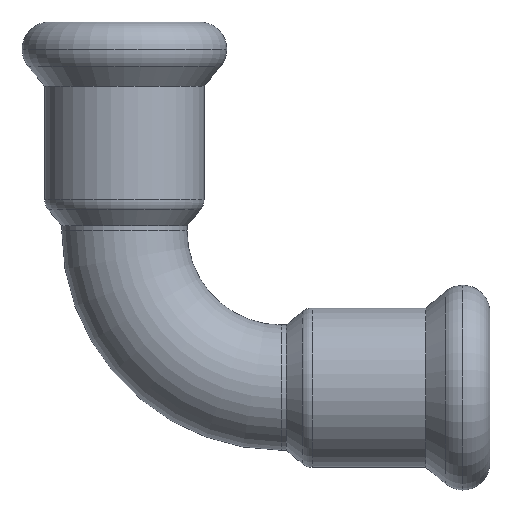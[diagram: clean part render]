
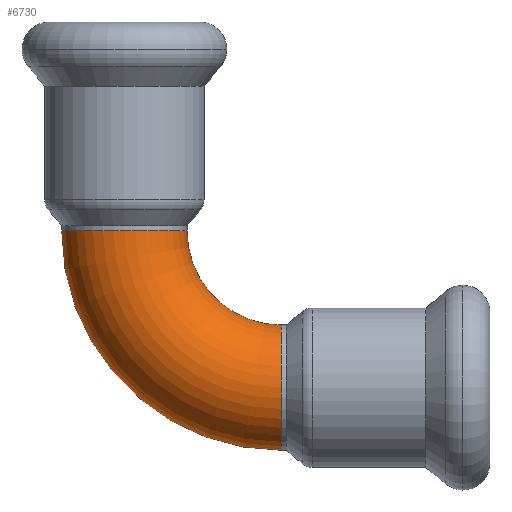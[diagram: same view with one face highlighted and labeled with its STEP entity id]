
A CAD part, top view. The second image highlights one B-rep face of the part: STEP entity #6730.
In plain terms, the highlighted toroidal (fillet/blend) face has major radius 15 mm and minor radius 6 mm.
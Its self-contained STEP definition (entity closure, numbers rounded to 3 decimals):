
#3160=CARTESIAN_POINT('',(-92.071,36.24,0.));
#3170=VERTEX_POINT('',#3160);
#3260=CARTESIAN_POINT('',(-104.071,36.24,
0.));
#3270=VERTEX_POINT('',#3260);
#6300=CARTESIAN_POINT('',(-83.071,36.24,0.));
#6310=DIRECTION('',(0.,0.,1.));
#6320=DIRECTION('',(-1.,0.,0.));
#6330=AXIS2_PLACEMENT_3D('',#6300,#6310,#6320);
#6340=TOROIDAL_SURFACE('',#6330,15.,6.);
#6350=CARTESIAN_POINT('',(-83.071,21.24,0.));
#6360=DIRECTION('',(1.,0.,0.));
#6370=DIRECTION('',(0.,1.,0.));
#6380=AXIS2_PLACEMENT_3D('',#6350,#6360,#6370);
#6390=CIRCLE('',#6380,6.);
#6400=CARTESIAN_POINT('',(-83.071,21.24,6.));
#6410=VERTEX_POINT('',#6400);
#6420=CARTESIAN_POINT('',(-83.071,15.24,
0.));
#6430=VERTEX_POINT('',#6420);
#6440=EDGE_CURVE('',#6410,#6430,#6390,.T.);
#6450=ORIENTED_EDGE('',*,*,#6440,.F.);
#6460=CARTESIAN_POINT('',(-83.071,36.24,
0.));
#6470=DIRECTION('',(0.,0.,1.));
#6480=DIRECTION('',(-1.,0.,0.));
#6490=AXIS2_PLACEMENT_3D('',#6460,#6470,#6480);
#6500=CIRCLE('',#6490,21.);
#6510=EDGE_CURVE('',#3270,#6430,#6500,.T.);
#6520=ORIENTED_EDGE('',*,*,#6510,.T.);
#6530=CARTESIAN_POINT('',(-98.071,36.24,0.));
#6540=DIRECTION('',(0.,-1.,0.));
#6550=DIRECTION('',(1.,0.,0.));
#6560=AXIS2_PLACEMENT_3D('',#6530,#6540,#6550);
#6570=CIRCLE('',#6560,6.);
#6580=EDGE_CURVE('',#3170,#3270,#6570,.T.);
#6590=ORIENTED_EDGE('',*,*,#6580,.T.);
#6600=CARTESIAN_POINT('',(-83.071,36.24,0.));
#6610=DIRECTION('',(0.,0.,1.));
#6620=DIRECTION('',(-1.,0.,0.));
#6630=AXIS2_PLACEMENT_3D('',#6600,#6610,#6620);
#6640=CIRCLE('',#6630,9.);
#6650=CARTESIAN_POINT('',(-83.071,27.24,0.));
#6660=VERTEX_POINT('',#6650);
#6670=EDGE_CURVE('',#3170,#6660,#6640,.T.);
#6680=ORIENTED_EDGE('',*,*,#6670,.F.);
#6690=EDGE_CURVE('',#6660,#6410,#6390,.T.);
#6700=ORIENTED_EDGE('',*,*,#6690,.F.);
#6710=EDGE_LOOP('',(#6700,#6680,#6590,#6520,#6450));
#6720=FACE_OUTER_BOUND('',#6710,.T.);
#6730=ADVANCED_FACE('',(#6720),#6340,.T.);
